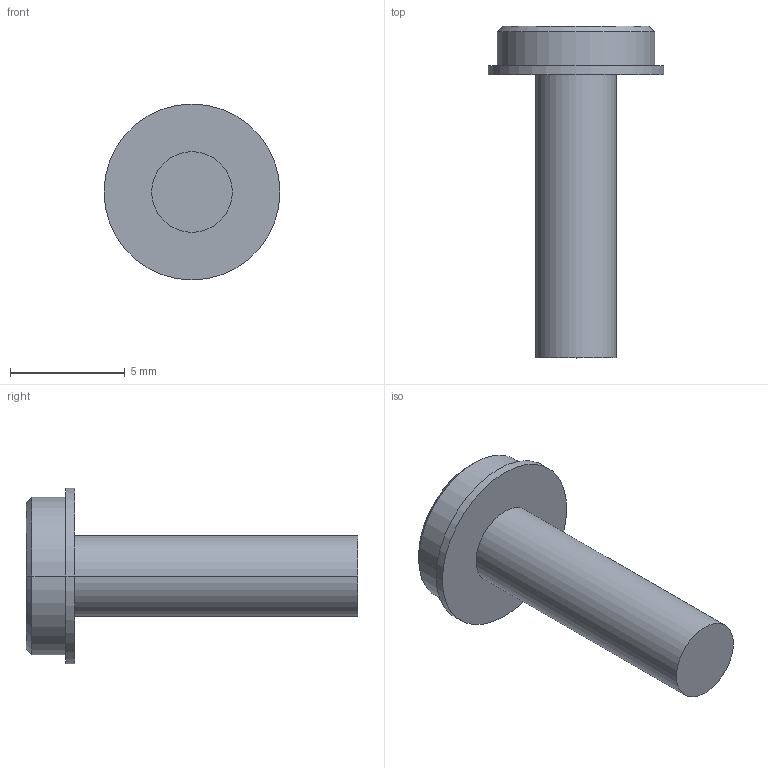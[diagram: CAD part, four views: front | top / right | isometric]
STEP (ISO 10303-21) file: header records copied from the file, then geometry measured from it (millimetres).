
FILE_DESCRIPTION((''),'2;1');
FILE_NAME('6-32X1-2PPHSEM','2020-05-26T13:27:04',('dking'),('Keithley Instruments'),'CREO PARAMETRIC BY PTC INC, 2019080','CREO PARAMETRIC BY PTC INC, 2019080','');
FILE_SCHEMA(('AUTOMOTIVE_DESIGN { 1 0 10303 214 1 1 1 1 }'));
Length unit declared in the file: inch
Products named in the file (1): 6-32X1-2PPHSEM
Bounding box: 7.65 x 14.43 x 7.65 mm (x, y, z)
Volume: 195 mm3; surface area: 285.5 mm2
Topology: 1 solids, 1 shells, 29 faces, 70 edges, 46 vertices
Faces by surface type: plane 17, cylinder 10, cone 2
Entity records: 1477 total; most frequent: COLOUR_RGB 190, DIRECTION 180, CARTESIAN_POINT 168, ORIENTED_EDGE 140, EDGE_CURVE 70, AXIS2_PLACEMENT_3D 61, VECTOR 55, LINE 55
